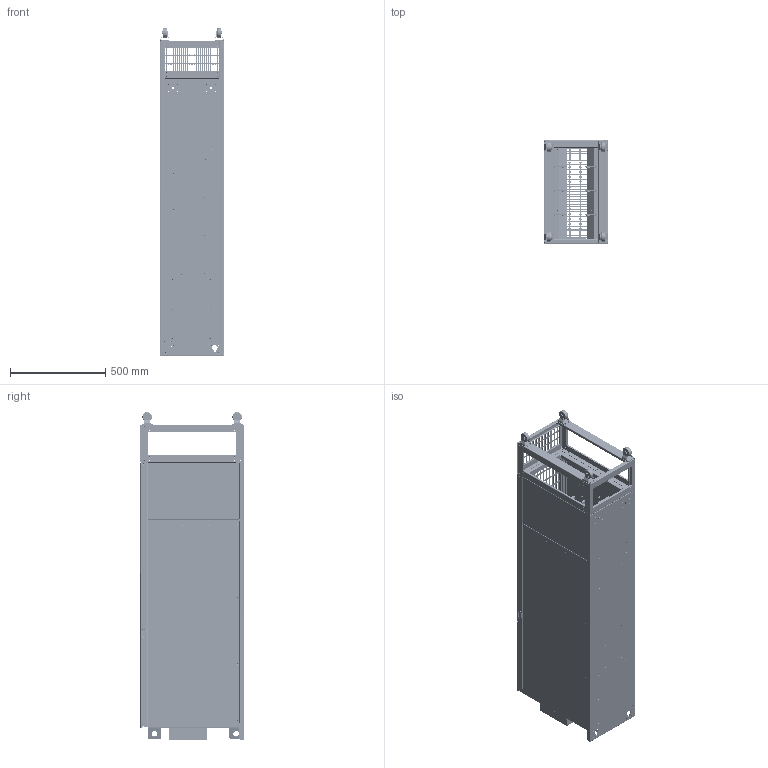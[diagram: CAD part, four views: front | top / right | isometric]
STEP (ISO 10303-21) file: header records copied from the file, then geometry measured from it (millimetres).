
FILE_DESCRIPTION((''),'2;1');
FILE_NAME('S32_ASM_ASM','2019-04-15T',('PC-TR'),(''),'PRO/ENGINEER BY PARAMETRIC TECHNOLOGY CORPORATION, 2010280','PRO/ENGINEER BY PARAMETRIC TECHNOLOGY CORPORATION, 2010280','');
FILE_SCHEMA(('CONFIG_CONTROL_DESIGN'));
Products named in the file (1): S32_ASM_ASM
Bounding box: 341 x 541.5 x 1720 mm (x, y, z)
Surface area: 9747320.3 mm2 (no closed solid volume)
Topology: 0 solids, 167 shells, 8319 faces, 21718 edges, 13433 vertices
Faces by surface type: cylinder 3948, plane 3942, cone 324, bspline 69, torus 36
Entity records: 261555 total; most frequent: CARTESIAN_POINT 48349, DIRECTION 46568, ORIENTED_EDGE 42974, EDGE_CURVE 21718, AXIS2_PLACEMENT_3D 16968, VERTEX_POINT 13433, VECTOR 12632, LINE 12632
